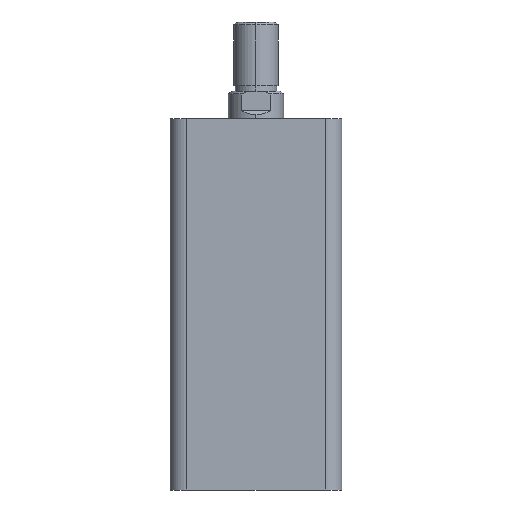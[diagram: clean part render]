
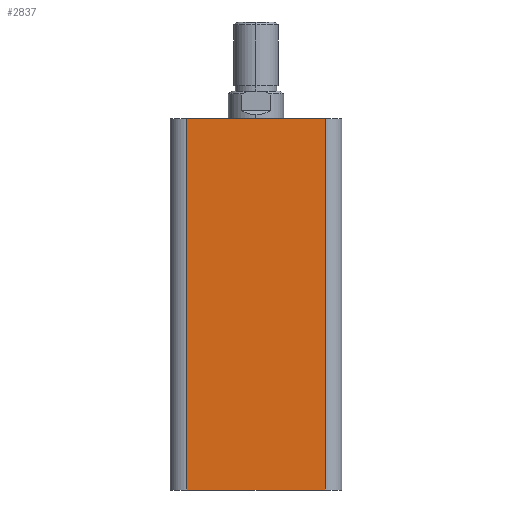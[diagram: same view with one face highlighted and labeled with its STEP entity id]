
A CAD part, left-side view. The second image highlights one B-rep face of the part: STEP entity #2837.
In plain terms, the highlighted planar face has unit normal (-1, 0, 0).
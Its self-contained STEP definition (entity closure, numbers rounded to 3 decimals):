
#304 = CARTESIAN_POINT ( 'NONE',  ( -31., 31., 134. ) ) ;
#308 = PLANE ( 'NONE',  #3934 ) ;
#310 = DIRECTION ( 'NONE',  ( 1., 0., 0. ) ) ;
#311 = DIRECTION ( 'NONE',  ( 0., 0., -1. ) ) ;
#667 = CARTESIAN_POINT ( 'NONE',  ( -31., -25., 0. ) ) ;
#668 = CARTESIAN_POINT ( 'NONE',  ( -31., 25., 0. ) ) ;
#688 = CARTESIAN_POINT ( 'NONE',  ( -31., -25., 134. ) ) ;
#708 = CARTESIAN_POINT ( 'NONE',  ( -31., 25., 134. ) ) ;
#1164 = CARTESIAN_POINT ( 'NONE',  ( -31., 31., 134. ) ) ;
#1165 = DIRECTION ( 'NONE',  ( 0., -1., 0. ) ) ;
#1332 = DIRECTION ( 'NONE',  ( 0., -1., 0. ) ) ;
#1334 = CARTESIAN_POINT ( 'NONE',  ( -31., 31., 0. ) ) ;
#1363 = CARTESIAN_POINT ( 'NONE',  ( -31., -25., 134. ) ) ;
#1364 = DIRECTION ( 'NONE',  ( 0., 0., 1. ) ) ;
#1365 = CARTESIAN_POINT ( 'NONE',  ( -31., 25., 134. ) ) ;
#1366 = DIRECTION ( 'NONE',  ( 0., 0., -1. ) ) ;
#2275 = EDGE_LOOP ( 'NONE', ( #4981, #5055, #5054, #5056 ) ) ;
#2461 = EDGE_CURVE ( 'NONE', #3134, #3114, #4269, .T. ) ;
#2496 = EDGE_CURVE ( 'NONE', #3094, #3093, #4308, .T. ) ;
#2781 = EDGE_CURVE ( 'NONE', #3093, #3114, #4329, .T. ) ;
#2782 = EDGE_CURVE ( 'NONE', #3134, #3094, #4331, .T. ) ;
#2837 = ADVANCED_FACE ( 'NONE', ( #4418 ), #308, .F. ) ;
#3093 = VERTEX_POINT ( 'NONE', #667 ) ;
#3094 = VERTEX_POINT ( 'NONE', #668 ) ;
#3114 = VERTEX_POINT ( 'NONE', #688 ) ;
#3134 = VERTEX_POINT ( 'NONE', #708 ) ;
#3934 = AXIS2_PLACEMENT_3D ( 'NONE', #304, #310, #311 ) ;
#4269 = LINE ( 'NONE', #1164, #4271 ) ;
#4271 = VECTOR ( 'NONE', #1165, 1000. ) ;
#4308 = LINE ( 'NONE', #1334, #4312 ) ;
#4312 = VECTOR ( 'NONE', #1332, 1000. ) ;
#4329 = LINE ( 'NONE', #1363, #4332 ) ;
#4331 = LINE ( 'NONE', #1365, #4334 ) ;
#4332 = VECTOR ( 'NONE', #1364, 1000. ) ;
#4334 = VECTOR ( 'NONE', #1366, 1000. ) ;
#4418 = FACE_OUTER_BOUND ( 'NONE', #2275, .T. ) ;
#4981 = ORIENTED_EDGE ( 'NONE', *, *, #2496, .T. ) ;
#5054 = ORIENTED_EDGE ( 'NONE', *, *, #2461, .F. ) ;
#5055 = ORIENTED_EDGE ( 'NONE', *, *, #2781, .T. ) ;
#5056 = ORIENTED_EDGE ( 'NONE', *, *, #2782, .T. ) ;
